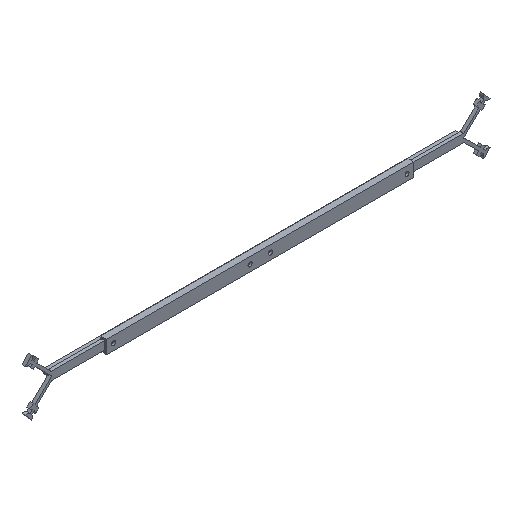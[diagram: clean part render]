
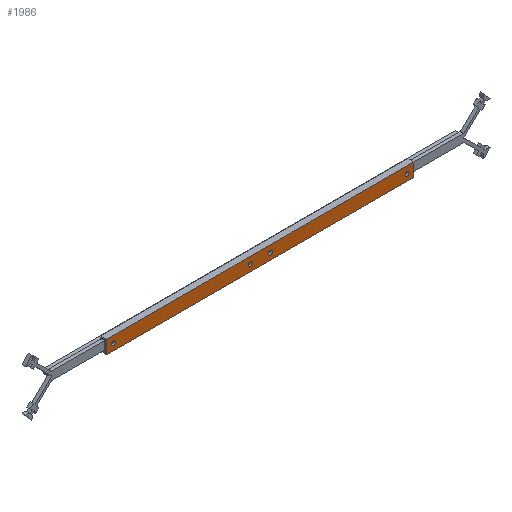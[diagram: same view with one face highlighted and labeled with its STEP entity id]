
A CAD part, isometric view. The second image highlights one B-rep face of the part: STEP entity #1986.
In plain terms, the highlighted planar face has unit normal (0, -1, 0).
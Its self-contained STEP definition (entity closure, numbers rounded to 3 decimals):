
#27=FACE_BOUND('',#317,.T.);
#28=FACE_BOUND('',#318,.T.);
#29=FACE_BOUND('',#319,.T.);
#30=FACE_BOUND('',#320,.T.);
#104=PLANE('',#2152);
#206=FACE_OUTER_BOUND('',#316,.T.);
#316=EDGE_LOOP('',(#1821,#1822,#1823,#1824));
#317=EDGE_LOOP('',(#1825));
#318=EDGE_LOOP('',(#1826));
#319=EDGE_LOOP('',(#1827));
#320=EDGE_LOOP('',(#1828));
#542=LINE('',#3217,#774);
#549=LINE('',#3231,#781);
#550=LINE('',#3233,#782);
#551=LINE('',#3234,#783);
#774=VECTOR('',#2654,10.);
#781=VECTOR('',#2663,10.);
#782=VECTOR('',#2664,10.);
#783=VECTOR('',#2665,10.);
#838=CIRCLE('',#2141,1.2);
#840=CIRCLE('',#2144,1.2);
#842=CIRCLE('',#2147,1.2);
#844=CIRCLE('',#2150,1.2);
#1006=VERTEX_POINT('',#3191);
#1008=VERTEX_POINT('',#3197);
#1010=VERTEX_POINT('',#3203);
#1012=VERTEX_POINT('',#3209);
#1014=VERTEX_POINT('',#3214);
#1015=VERTEX_POINT('',#3216);
#1021=VERTEX_POINT('',#3230);
#1022=VERTEX_POINT('',#3232);
#1275=EDGE_CURVE('',#1006,#1006,#838,.T.);
#1278=EDGE_CURVE('',#1008,#1008,#840,.T.);
#1281=EDGE_CURVE('',#1010,#1010,#842,.T.);
#1284=EDGE_CURVE('',#1012,#1012,#844,.T.);
#1286=EDGE_CURVE('',#1014,#1015,#542,.T.);
#1293=EDGE_CURVE('',#1021,#1014,#549,.T.);
#1294=EDGE_CURVE('',#1022,#1021,#550,.T.);
#1295=EDGE_CURVE('',#1015,#1022,#551,.T.);
#1821=ORIENTED_EDGE('',*,*,#1293,.F.);
#1822=ORIENTED_EDGE('',*,*,#1294,.F.);
#1823=ORIENTED_EDGE('',*,*,#1295,.F.);
#1824=ORIENTED_EDGE('',*,*,#1286,.F.);
#1825=ORIENTED_EDGE('',*,*,#1275,.T.);
#1826=ORIENTED_EDGE('',*,*,#1278,.T.);
#1827=ORIENTED_EDGE('',*,*,#1281,.T.);
#1828=ORIENTED_EDGE('',*,*,#1284,.T.);
#1986=ADVANCED_FACE('',(#206,#27,#28,#29,#30),#104,.T.);
#2141=AXIS2_PLACEMENT_3D('',#3193,#2628,#2629);
#2144=AXIS2_PLACEMENT_3D('',#3199,#2635,#2636);
#2147=AXIS2_PLACEMENT_3D('',#3205,#2642,#2643);
#2150=AXIS2_PLACEMENT_3D('',#3211,#2649,#2650);
#2152=AXIS2_PLACEMENT_3D('',#3229,#2661,#2662);
#2628=DIRECTION('center_axis',(0.,1.,0.));
#2629=DIRECTION('ref_axis',(0.,0.,
-1.));
#2635=DIRECTION('center_axis',(0.,1.,0.));
#2636=DIRECTION('ref_axis',(0.,0.,
-1.));
#2642=DIRECTION('center_axis',(0.,1.,0.));
#2643=DIRECTION('ref_axis',(0.,0.,-1.));
#2649=DIRECTION('center_axis',(0.,1.,0.));
#2650=DIRECTION('ref_axis',(0.,0.,-1.));
#2654=DIRECTION('',(0.,0.,1.));
#2661=DIRECTION('center_axis',(0.,-1.,0.));
#2662=DIRECTION('ref_axis',(0.,0.,-1.));
#2663=DIRECTION('',(-1.,0.,0.));
#2664=DIRECTION('',(0.,0.,-1.));
#2665=DIRECTION('',(1.,0.,0.));
#3191=CARTESIAN_POINT('',(64.,11.5,1.2));
#3193=CARTESIAN_POINT('Origin',(64.,11.5,0.));
#3197=CARTESIAN_POINT('',(144.,11.5,1.2));
#3199=CARTESIAN_POINT('Origin',(144.,11.5,0.));
#3203=CARTESIAN_POINT('',(156.,11.5,1.2));
#3205=CARTESIAN_POINT('Origin',(156.,11.5,0.));
#3209=CARTESIAN_POINT('',(236.,11.5,1.2));
#3211=CARTESIAN_POINT('Origin',(236.,11.5,0.));
#3214=CARTESIAN_POINT('',(60.,11.5,-3.921));
#3216=CARTESIAN_POINT('',(60.,11.5,3.921));
#3217=CARTESIAN_POINT('',(60.,11.5,-3.921));
#3229=CARTESIAN_POINT('Origin',(150.,11.5,3.921));
#3230=CARTESIAN_POINT('',(240.,11.5,-3.921));
#3231=CARTESIAN_POINT('',(150.,11.5,-3.921));
#3232=CARTESIAN_POINT('',(240.,11.5,3.921));
#3233=CARTESIAN_POINT('',(240.,11.5,-3.921));
#3234=CARTESIAN_POINT('',(150.,11.5,3.921));
